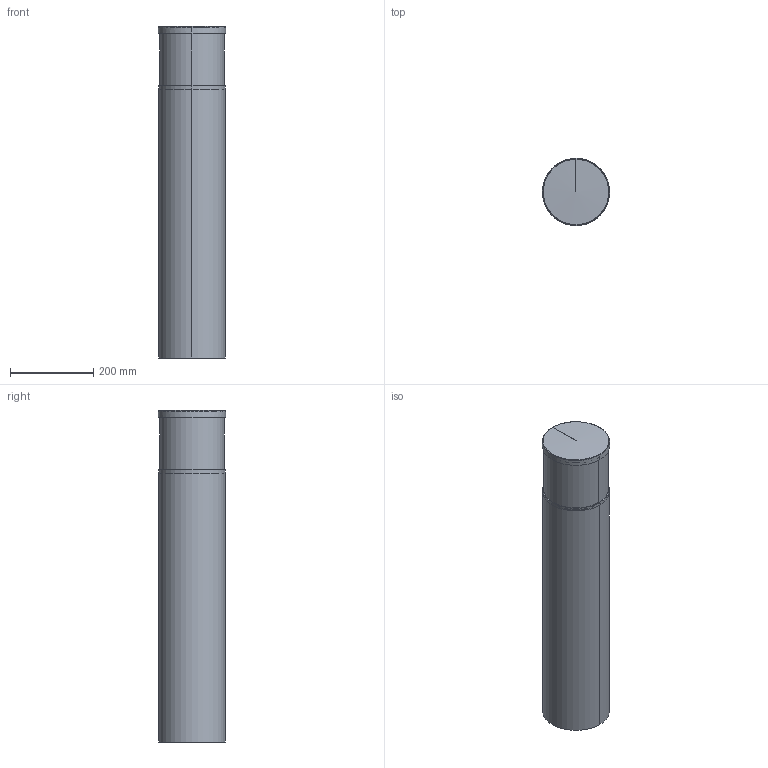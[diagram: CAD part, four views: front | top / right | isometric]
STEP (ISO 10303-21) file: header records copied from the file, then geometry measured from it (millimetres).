
FILE_DESCRIPTION(/* description */ (''),/* implementation_level */ '2;1');
FILE_NAME(/* name */ 'C:\Users\Franco Sartori E\Documents\FARO\DUPLICADO\Modelos\01_Digitalizados\2021\0_SCREEN\03_Publicación\BEACON\751100.stp',/* time_stamp */ '2021-01-11T12:16:11+01:00',/* author */ ('Franco Sartori E'),/* organization */ (''),/* preprocessor_version */ 'ST-DEVELOPER v18.1',/* originating_system */ 'AutoCAD Mechanical',/* authorisation */ '');
FILE_SCHEMA (('AUTOMOTIVE_DESIGN { 1 0 10303 214 3 1 1 }'));
Length unit declared in the file: millimetre
Products named in the file (2): Product; 800_SCREEN - SCREEN-464047-Export
Assembly tree (1 placements, depth 2):
  Product
    800_SCREEN - SCREEN-464047-Export
Bounding box: 162 x 162 x 797.51 mm (x, y, z)
Volume: 1474196.6 mm3; surface area: 1105218.1 mm2
Topology: 9 solids, 9 shells, 340 faces, 916 edges, 566 vertices
Faces by surface type: cylinder 154, plane 140, cone 28, torus 12, sphere 6
Entity records: 11673 total; most frequent: CARTESIAN_POINT 2949, DIRECTION 1859, ORIENTED_EDGE 1824, EDGE_CURVE 912, AXIS2_PLACEMENT_3D 679, VERTEX_POINT 566, LINE 501, VECTOR 501
